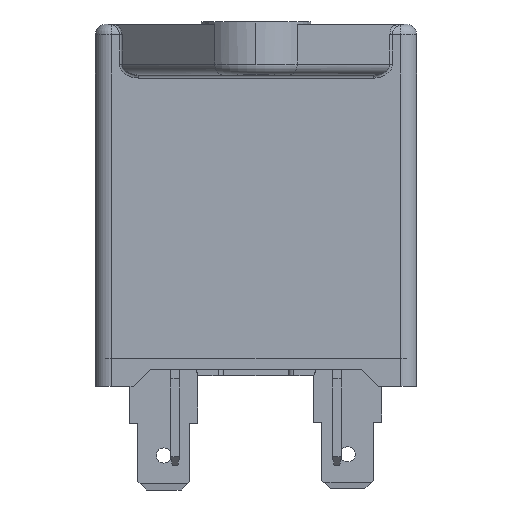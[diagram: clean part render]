
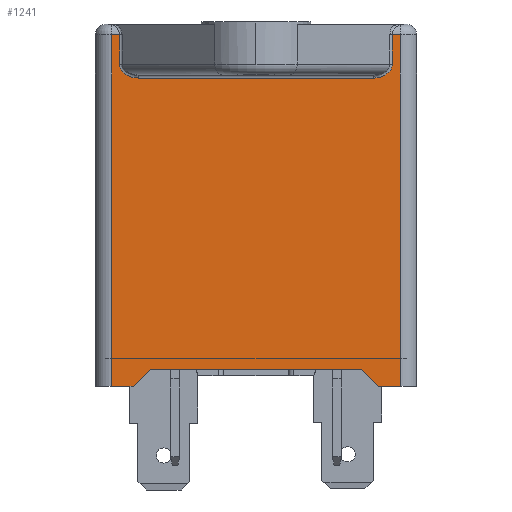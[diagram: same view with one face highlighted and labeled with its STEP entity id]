
A CAD part, left-side view. The second image highlights one B-rep face of the part: STEP entity #1241.
In plain terms, the highlighted planar face has unit normal (-1, 0, 0).
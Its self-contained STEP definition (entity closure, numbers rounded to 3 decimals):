
#186 = EDGE_CURVE ( 'NONE', #2165, #8764, #3466, .T. ) ;
#323 = CARTESIAN_POINT ( 'NONE',  ( -20.05, -12.65, 30. ) ) ;
#335 = EDGE_CURVE ( 'NONE', #11446, #10587, #9061, .T. ) ;
#386 = ORIENTED_EDGE ( 'NONE', *, *, #7448, .T. ) ;
#579 = VERTEX_POINT ( 'NONE', #8284 ) ;
#594 = CARTESIAN_POINT ( 'NONE',  ( -20.05, -12.65, 26.538 ) ) ;
#605 = VECTOR ( 'NONE', #2510, 1000. ) ;
#642 = EDGE_CURVE ( 'NONE', #2832, #6061, #5003, .T. ) ;
#814 = CARTESIAN_POINT ( 'NONE',  ( -20.05, 12.65, 26.538 ) ) ;
#853 = VERTEX_POINT ( 'NONE', #5937 ) ;
#1080 = CARTESIAN_POINT ( 'NONE',  ( -20.05, 13.4, -2.6 ) ) ;
#1110 = CARTESIAN_POINT ( 'NONE',  ( -20.05, 13.4, -1. ) ) ;
#1174 = VERTEX_POINT ( 'NONE', #323 ) ;
#1184 = EDGE_CURVE ( 'NONE', #6061, #4779, #6212, .T. ) ;
#1213 = CARTESIAN_POINT ( 'NONE',  ( -20.05, -11.4, -2.6 ) ) ;
#1241 = ADVANCED_FACE ( 'NONE', ( #4360 ), #12328, .T. ) ;
#1243 = LINE ( 'NONE', #1564, #6481 ) ;
#1462 = CARTESIAN_POINT ( 'NONE',  ( -20.05, 10.915, 26. ) ) ;
#1496 = CARTESIAN_POINT ( 'NONE',  ( -20.05, 11.4, -2.6 ) ) ;
#1564 = CARTESIAN_POINT ( 'NONE',  ( -20.05, 12.65, -1. ) ) ;
#1565 = VECTOR ( 'NONE', #12316, 1000. ) ;
#1604 = DIRECTION ( 'NONE',  ( 0., 0., 1. ) ) ;
#1723 = CARTESIAN_POINT ( 'NONE',  ( -20.05, -11.932, 26. ) ) ;
#1876 = ORIENTED_EDGE ( 'NONE', *, *, #9506, .T. ) ;
#2165 = VERTEX_POINT ( 'NONE', #5673 ) ;
#2190 = VECTOR ( 'NONE', #9665, 1000. ) ;
#2309 = LINE ( 'NONE', #5462, #605 ) ;
#2350 = ORIENTED_EDGE ( 'NONE', *, *, #3111, .T. ) ;
#2429 = CARTESIAN_POINT ( 'NONE',  ( -20.05, -9.8, -1. ) ) ;
#2460 = CARTESIAN_POINT ( 'NONE',  ( -20.05, 9.8, -1. ) ) ;
#2508 = CARTESIAN_POINT ( 'NONE',  ( -20.05, 14.9, -1. ) ) ;
#2510 = DIRECTION ( 'NONE',  ( 0., 1., 0. ) ) ;
#2535 = CARTESIAN_POINT ( 'NONE',  ( -20.05, 14.9, -1. ) ) ;
#2769 = VECTOR ( 'NONE', #11562, 1000. ) ;
#2832 = VERTEX_POINT ( 'NONE', #3279 ) ;
#3111 = EDGE_CURVE ( 'NONE', #3442, #853, #10736, .T. ) ;
#3279 = CARTESIAN_POINT ( 'NONE',  ( -20.05, -9.8, -1. ) ) ;
#3442 = VERTEX_POINT ( 'NONE', #1462 ) ;
#3466 = LINE ( 'NONE', #8799, #5921 ) ;
#3543 = ORIENTED_EDGE ( 'NONE', *, *, #6302, .T. ) ;
#3568 = CARTESIAN_POINT ( 'NONE',  ( -20.05, -12.65, -1. ) ) ;
#3747 = VECTOR ( 'NONE', #10452, 1000. ) ;
#3776 = VECTOR ( 'NONE', #6385, 1000. ) ;
#4052 = VERTEX_POINT ( 'NONE', #4329 ) ;
#4318 = LINE ( 'NONE', #12404, #1565 ) ;
#4329 = CARTESIAN_POINT ( 'NONE',  ( -20.05, -12.65, 27.3 ) ) ;
#4348 = CARTESIAN_POINT ( 'NONE',  ( -20.05, 14.9, 30. ) ) ;
#4360 = FACE_OUTER_BOUND ( 'NONE', #4710, .T. ) ;
#4393 = LINE ( 'NONE', #4348, #9966 ) ;
#4420 = VERTEX_POINT ( 'NONE', #10897 ) ;
#4644 = CARTESIAN_POINT ( 'NONE',  ( -20.05, 10.915, 26. ) ) ;
#4682 = EDGE_CURVE ( 'NONE', #4753, #2832, #8870, .T. ) ;
#4710 = EDGE_LOOP ( 'NONE', ( #7675, #11311, #11270, #1876, #2350, #3543, #6709, #10268, #11049, #386, #9843, #8374, #7467, #9747 ) ) ;
#4753 = VERTEX_POINT ( 'NONE', #2460 ) ;
#4779 = VERTEX_POINT ( 'NONE', #7057 ) ;
#4993 = EDGE_CURVE ( 'NONE', #8764, #10587, #7609, .T. ) ;
#5003 = LINE ( 'NONE', #2429, #3776 ) ;
#5369 = LINE ( 'NONE', #9476, #2769 ) ;
#5462 = CARTESIAN_POINT ( 'NONE',  ( -20.05, 14.9, 26. ) ) ;
#5673 = CARTESIAN_POINT ( 'NONE',  ( -20.05, 12.65, 30. ) ) ;
#5921 = VECTOR ( 'NONE', #9786, 1000. ) ;
#5937 = CARTESIAN_POINT ( 'NONE',  ( -20.05, 12.65, 27.3 ) ) ;
#5957 = DIRECTION ( 'NONE',  ( 0., 1., 0. ) ) ;
#6061 = VERTEX_POINT ( 'NONE', #1213 ) ;
#6212 = LINE ( 'NONE', #7119, #6524 ) ;
#6302 = EDGE_CURVE ( 'NONE', #853, #2165, #1243, .T. ) ;
#6385 = DIRECTION ( 'NONE',  ( 0., -0.707, -0.707 ) ) ;
#6481 = VECTOR ( 'NONE', #1604, 1000. ) ;
#6524 = VECTOR ( 'NONE', #12035, 1000. ) ;
#6709 = ORIENTED_EDGE ( 'NONE', *, *, #186, .T. ) ;
#7057 = CARTESIAN_POINT ( 'NONE',  ( -20.05, -13.4, -2.6 ) ) ;
#7119 = CARTESIAN_POINT ( 'NONE',  ( -20.05, -11.4, -2.6 ) ) ;
#7448 = EDGE_CURVE ( 'NONE', #11446, #4753, #5369, .T. ) ;
#7467 = ORIENTED_EDGE ( 'NONE', *, *, #1184, .T. ) ;
#7609 = LINE ( 'NONE', #1110, #8550 ) ;
#7675 = ORIENTED_EDGE ( 'NONE', *, *, #12519, .T. ) ;
#8138 = VECTOR ( 'NONE', #5957, 1000. ) ;
#8284 = CARTESIAN_POINT ( 'NONE',  ( -20.05, -10.915, 26. ) ) ;
#8374 = ORIENTED_EDGE ( 'NONE', *, *, #642, .T. ) ;
#8550 = VECTOR ( 'NONE', #10013, 1000. ) ;
#8561 = EDGE_CURVE ( 'NONE', #4052, #579, #11711, .T. ) ;
#8578 = EDGE_CURVE ( 'NONE', #1174, #4052, #12269, .T. ) ;
#8764 = VERTEX_POINT ( 'NONE', #9067 ) ;
#8799 = CARTESIAN_POINT ( 'NONE',  ( -20.05, 14.9, 30. ) ) ;
#8870 = LINE ( 'NONE', #2508, #3747 ) ;
#9012 = EDGE_CURVE ( 'NONE', #4779, #4420, #4318, .T. ) ;
#9061 = LINE ( 'NONE', #9876, #8138 ) ;
#9067 = CARTESIAN_POINT ( 'NONE',  ( -20.05, 13.4, 30. ) ) ;
#9476 = CARTESIAN_POINT ( 'NONE',  ( -20.05, 11.4, -2.6 ) ) ;
#9506 = EDGE_CURVE ( 'NONE', #579, #3442, #2309, .T. ) ;
#9665 = DIRECTION ( 'NONE',  ( 0., 0., -1. ) ) ;
#9747 = ORIENTED_EDGE ( 'NONE', *, *, #9012, .T. ) ;
#9786 = DIRECTION ( 'NONE',  ( 0., 1., 0. ) ) ;
#9843 = ORIENTED_EDGE ( 'NONE', *, *, #4682, .T. ) ;
#9876 = CARTESIAN_POINT ( 'NONE',  ( -20.05, 11.4, -2.6 ) ) ;
#9966 = VECTOR ( 'NONE', #11322, 1000. ) ;
#10013 = DIRECTION ( 'NONE',  ( 0., 0., -1. ) ) ;
#10268 = ORIENTED_EDGE ( 'NONE', *, *, #4993, .T. ) ;
#10314 = DIRECTION ( 'NONE',  ( -1., 0., 0. ) ) ;
#10394 = DIRECTION ( 'NONE',  ( 0., 0., 1. ) ) ;
#10452 = DIRECTION ( 'NONE',  ( 0., -1., 0. ) ) ;
#10486 = CARTESIAN_POINT ( 'NONE',  ( -20.05, -12.65, 27.3 ) ) ;
#10498 = CARTESIAN_POINT ( 'NONE',  ( -20.05, 12.65, 27.3 ) ) ;
#10587 = VERTEX_POINT ( 'NONE', #1080 ) ;
#10736 =( BOUNDED_CURVE ( )  B_SPLINE_CURVE ( 3, ( #4644, #11634, #814, #10498 ),
 .UNSPECIFIED., .F., .F. ) 
 B_SPLINE_CURVE_WITH_KNOTS ( ( 4, 4 ),
 ( 4.712, 6.283 ),
 .UNSPECIFIED. ) 
 CURVE ( )  GEOMETRIC_REPRESENTATION_ITEM ( )  RATIONAL_B_SPLINE_CURVE ( ( 1., 0.805, 0.805, 1. ) ) 
 REPRESENTATION_ITEM ( '' )  );
#10897 = CARTESIAN_POINT ( 'NONE',  ( -20.05, -13.4, 30. ) ) ;
#10968 = AXIS2_PLACEMENT_3D ( 'NONE', #2535, #10314, #10394 ) ;
#11049 = ORIENTED_EDGE ( 'NONE', *, *, #335, .F. ) ;
#11270 = ORIENTED_EDGE ( 'NONE', *, *, #8561, .T. ) ;
#11311 = ORIENTED_EDGE ( 'NONE', *, *, #8578, .T. ) ;
#11322 = DIRECTION ( 'NONE',  ( 0., 1., 0. ) ) ;
#11446 = VERTEX_POINT ( 'NONE', #1496 ) ;
#11562 = DIRECTION ( 'NONE',  ( 0., -0.707, 0.707 ) ) ;
#11634 = CARTESIAN_POINT ( 'NONE',  ( -20.05, 11.932, 26. ) ) ;
#11711 =( BOUNDED_CURVE ( )  B_SPLINE_CURVE ( 3, ( #10486, #594, #1723, #12624 ),
 .UNSPECIFIED., .F., .F. ) 
 B_SPLINE_CURVE_WITH_KNOTS ( ( 4, 4 ),
 ( 3.142, 4.712 ),
 .UNSPECIFIED. ) 
 CURVE ( )  GEOMETRIC_REPRESENTATION_ITEM ( )  RATIONAL_B_SPLINE_CURVE ( ( 1., 0.805, 0.805, 1. ) ) 
 REPRESENTATION_ITEM ( '' )  );
#12035 = DIRECTION ( 'NONE',  ( 0., -1., 0. ) ) ;
#12269 = LINE ( 'NONE', #3568, #2190 ) ;
#12316 = DIRECTION ( 'NONE',  ( 0., 0., 1. ) ) ;
#12328 = PLANE ( 'NONE',  #10968 ) ;
#12404 = CARTESIAN_POINT ( 'NONE',  ( -20.05, -13.4, 31. ) ) ;
#12519 = EDGE_CURVE ( 'NONE', #4420, #1174, #4393, .T. ) ;
#12624 = CARTESIAN_POINT ( 'NONE',  ( -20.05, -10.915, 26. ) ) ;
